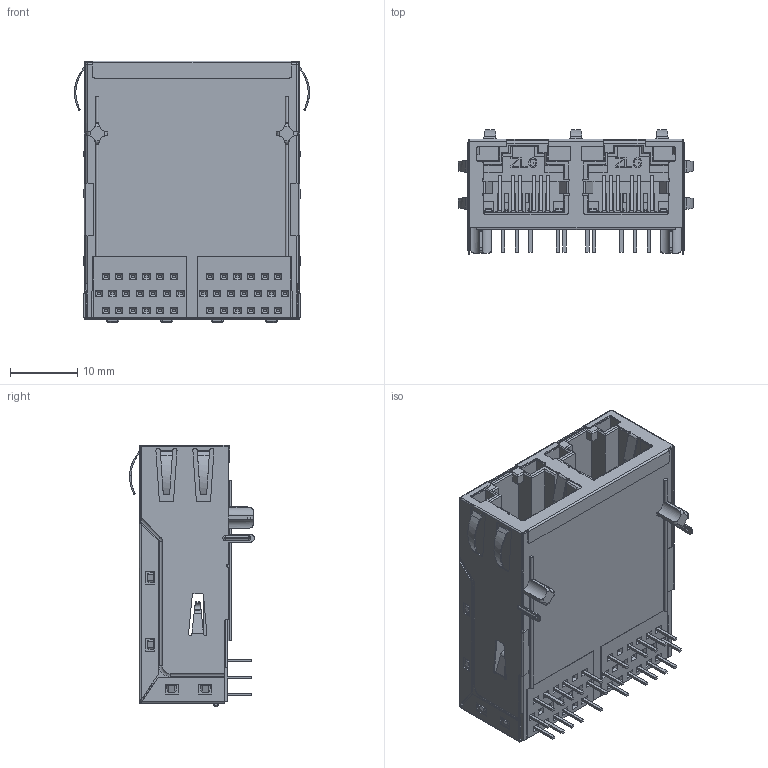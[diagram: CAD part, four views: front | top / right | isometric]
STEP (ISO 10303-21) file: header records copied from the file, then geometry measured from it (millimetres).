
FILE_DESCRIPTION((''),'2;1');
FILE_NAME('DPORT________SW0001','2023-12-20T10:47:46',('liushaohao'),(''),'CREO PARAMETRIC BY PTC INC, 2021404','CREO PARAMETRIC BY PTC INC, 2021404','');
FILE_SCHEMA(('CONFIG_CONTROL_DESIGN'));
Products named in the file (1): DPORT________SW0001
Bounding box: 35.06 x 18.61 x 39 mm (x, y, z)
Volume: 5445.1 mm3; surface area: 16528.8 mm2
Topology: 13 solids, 13 shells, 2831 faces, 7933 edges, 5082 vertices
Faces by surface type: plane 2286, cylinder 426, bspline 87, cone 24, sphere 4, torus 4
Entity records: 95030 total; most frequent: CARTESIAN_POINT 22214, ORIENTED_EDGE 15826, DIRECTION 13853, EDGE_CURVE 7913, VECTOR 6829, LINE 6829, VERTEX_POINT 5082, AXIS2_PLACEMENT_3D 3512
